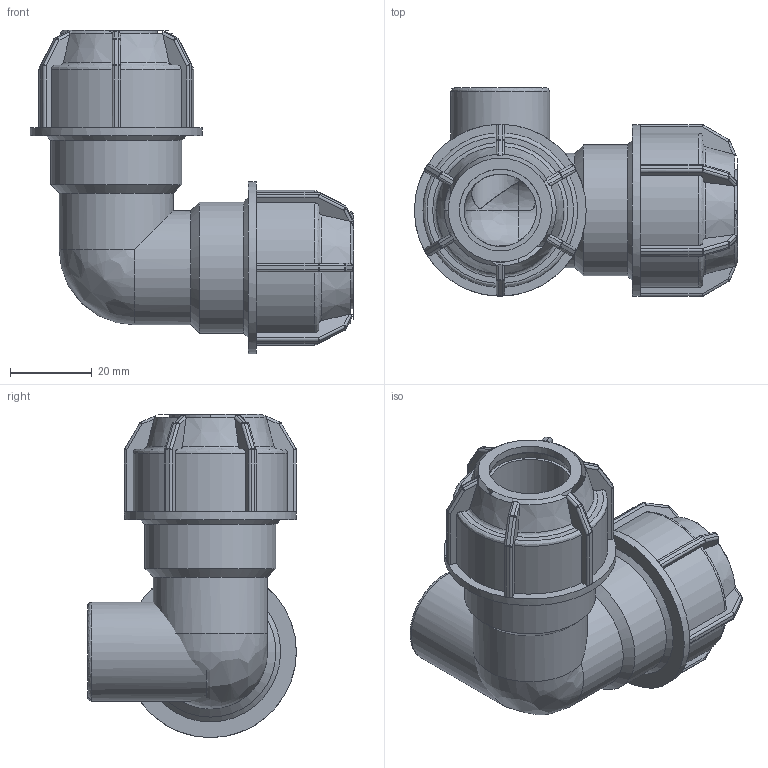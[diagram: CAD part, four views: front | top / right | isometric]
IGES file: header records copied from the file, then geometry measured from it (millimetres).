
Global section: file name: 146500020005.ipt; native system: Autodesk Inventor 2015; preprocessor: unknown; author: KIM; date: 20180409.131222; units: millimetre
Bounding box: 79 x 51 x 79 mm (x, y, z)
Volume: 67268.3 mm3; surface area: 26627.3 mm2
Topology: 2 solids, 2 shells, 422 faces, 1035 edges, 606 vertices
Faces by surface type: plane 197, cylinder 115, sphere 48, revolution 44, cone 16, bspline 2
Full cylindrical faces by diameter (mm): 24.22 x1, 27.947 x2, 32 x2, 42 x2
